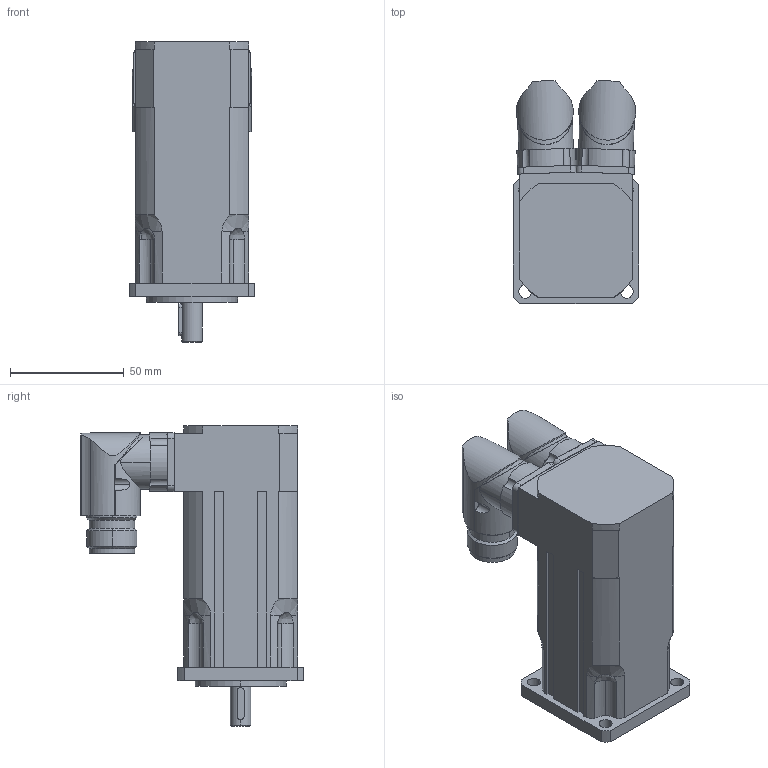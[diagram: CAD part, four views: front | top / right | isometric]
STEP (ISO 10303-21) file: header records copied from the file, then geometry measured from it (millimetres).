
FILE_DESCRIPTION(('STEP AP203'),'2;1');
FILE_NAME('MH2-0090.stp','2006-08-29T18:23:07',(''),(''),'2005.2.102','THINKDESIGN','');
FILE_SCHEMA(('CONFIG_CONTROL_DESIGN'));
Length unit declared in the file: millimetre
Bounding box: 55 x 97.7 x 132 mm (x, y, z)
Volume: 324096.8 mm3; surface area: 49635 mm2
Topology: 3 solids, 3 shells, 266 faces, 704 edges, 454 vertices
Faces by surface type: cylinder 120, plane 102, bspline 44
Entity records: 10039 total; most frequent: CARTESIAN_POINT 3358, ORIENTED_EDGE 1408, DIRECTION 1378, EDGE_CURVE 704, AXIS2_PLACEMENT_3D 528, VERTEX_POINT 454, VECTOR 322, LINE 322
